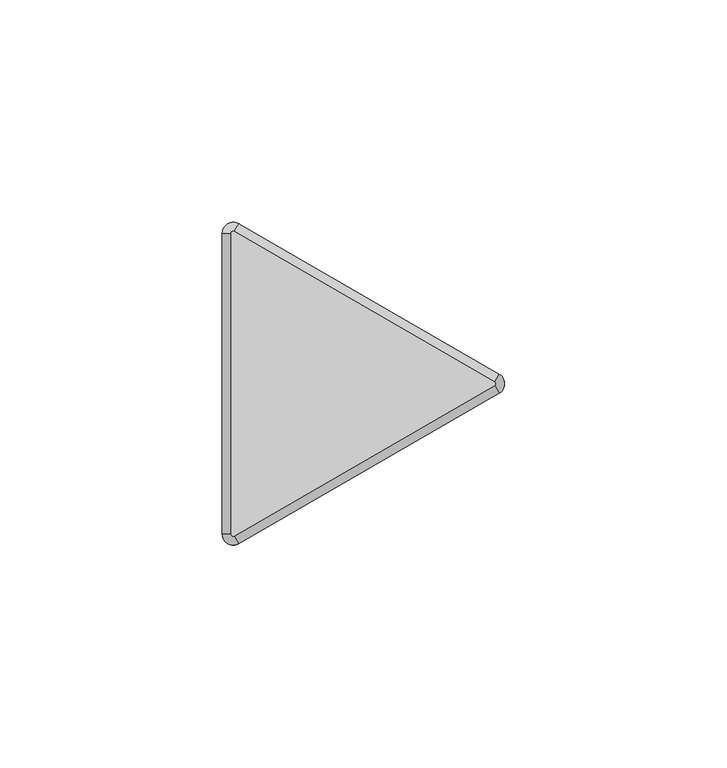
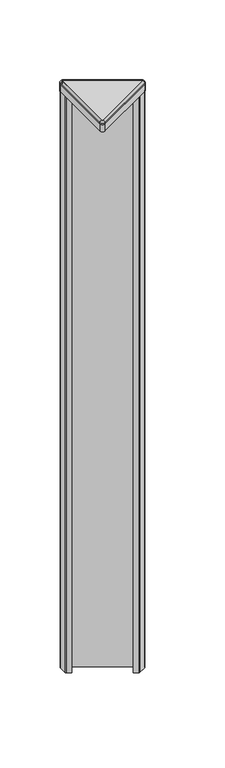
"""IFC4 building model written with IfcOpenShell, lengths in millimetres: furniture geometry, Steelcase - Answer Solution - Panel - 120deg Change-of-Height Trim - Thin : V Corner - 24H for 78H App."""

import ifcopenshell
import ifcopenshell.guid

model = None  # the IFC model being written
_history = None  # IfcOwnerHistory: only IFC2X3 demands one
_inside = {}  # id of a spatial element -> (the spatial element, [elements in it])
_under = {}  # id of a project, library or spatial element -> (it, [spatial elements below it])
_declared = {}  # id of a project -> (the project, [libraries it declares])
_typed = {}  # id of a type object -> (the type object, [elements of that type])
_made_of = {}  # id of a material, layer set ... -> (it, [elements and type objects made of it])


def new_model(schema):
    """Start an empty IFC model of exactly this schema.

    Asked for "IFC4X3", IfcOpenShell would pick the latest addendum, in which some entities
    have other attributes; the version numbers below select the first issue.
    IFC2X3 requires an IfcOwnerHistory on every rooted entity: one is made here for all.
    """
    global model, _history
    if schema == "IFC4X3":
        model = ifcopenshell.file(schema_version=(4, 3, 0, 0))
    else:
        model = ifcopenshell.file(schema=schema)
    _inside.clear()
    _under.clear()
    _declared.clear()
    _typed.clear()
    _made_of.clear()
    _history = None
    if model.schema == "IFC2X3":
        org = make("IfcOrganization", Name="unknown")
        user = make(
            "IfcPersonAndOrganization",
            ThePerson=make("IfcPerson", FamilyName="unknown"),
            TheOrganization=org,
        )
        app = make(
            "IfcApplication",
            ApplicationDeveloper=org,
            Version="unknown",
            ApplicationFullName="unknown",
            ApplicationIdentifier="unknown",
        )
        _history = make(
            "IfcOwnerHistory",
            OwningUser=user,
            OwningApplication=app,
            ChangeAction="ADDED",
            CreationDate=0,
        )
    return model


def make(cls, **values):
    """One entity of the class cls with the attributes given. An attribute that is None is left unset."""
    return model.create_entity(
        cls, **{name: value for name, value in values.items() if value is not None}
    )


def rooted(cls, **values):
    """An entity with a GlobalId (a new one), such as an element, a storey or a relation."""
    return make(cls, GlobalId=ifcopenshell.guid.new(), OwnerHistory=_history, **values)


def si_unit(unit_type, name, prefix=None):
    """IfcSIUnit, for example si_unit("LENGTHUNIT", "METRE", prefix="MILLI")."""
    return make("IfcSIUnit", UnitType=unit_type, Prefix=prefix, Name=name)


def assignment(units):
    """IfcUnitAssignment: the units of a project."""
    return None if units is None else make("IfcUnitAssignment", Units=units)


def point(xyz):
    """IfcCartesianPoint."""
    return None if xyz is None else make("IfcCartesianPoint", Coordinates=xyz)


def direction(xyz):
    """IfcDirection."""
    return None if xyz is None else make("IfcDirection", DirectionRatios=xyz)


def frame(location, z_axis=None, x_axis=None):
    """IfcAxis2Placement3D, a coordinate frame: its origin and axes. An axis left out is left unset."""
    return make(
        "IfcAxis2Placement3D",
        Location=point(location),
        Axis=direction(z_axis),
        RefDirection=direction(x_axis),
    )


def frame_2d(location, x_axis=None):
    """IfcAxis2Placement2D, a coordinate frame in the plane: its origin and x axis."""
    return make(
        "IfcAxis2Placement2D", Location=point(location), RefDirection=direction(x_axis)
    )


def origin():
    """The frame at (0, 0, 0) with its axes left unset."""
    return frame((0.0, 0.0, 0.0))


def place(relative_to, where):
    """IfcLocalPlacement: puts the frame where relative to a parent placement (None: the world)."""
    return make(
        "IfcLocalPlacement", PlacementRelTo=relative_to, RelativePlacement=where
    )


def context(
    kind, dimensions, precision=None, world=None, true_north=None, identifier=None
):
    """IfcGeometricRepresentationContext, for example the 3D "Model" context."""
    return make(
        "IfcGeometricRepresentationContext",
        ContextIdentifier=identifier,
        ContextType=kind,
        CoordinateSpaceDimension=dimensions,
        Precision=precision,
        WorldCoordinateSystem=world,
        TrueNorth=true_north,
    )


def project(units=None, contexts=None):
    """IfcProject with its units and contexts."""
    return rooted(
        "IfcProject",
        Name="project",
        RepresentationContexts=contexts,
        UnitsInContext=assignment(units),
    )


def spatial(cls, under=None, at=None, **own):
    """A site, building, storey or space (cls), placed at a placement, below another one or the project."""
    s = rooted(cls, ObjectPlacement=at, **own)
    if under is not None:
        _under.setdefault(under.id(), (under, []))[1].append(s)
    return s


def polyline(points):
    """IfcPolyline through the points."""
    return make("IfcPolyline", Points=[point(p) for p in points])


def circle_curve(where, radius):
    """IfcCircle in the frame where."""
    return make("IfcCircle", Position=where, Radius=radius)


def ellipse_curve(where, semi_axis1, semi_axis2):
    """IfcEllipse in the frame where."""
    return make(
        "IfcEllipse", Position=where, SemiAxis1=semi_axis1, SemiAxis2=semi_axis2
    )


def trimmed(basis, trim1, trim2, sense, master):
    """IfcTrimmedCurve: the piece of a basis curve between two trims."""
    return make(
        "IfcTrimmedCurve",
        BasisCurve=basis,
        Trim1=trim1,
        Trim2=trim2,
        SenseAgreement=sense,
        MasterRepresentation=master,
    )


def segment(curve, same_sense, transition):
    """IfcCompositeCurveSegment."""
    return make(
        "IfcCompositeCurveSegment",
        Transition=transition,
        SameSense=same_sense,
        ParentCurve=curve,
    )


def composite_curve(segments, self_intersect=None):
    """IfcCompositeCurve: segments joined end to end."""
    return make("IfcCompositeCurve", Segments=segments, SelfIntersect=self_intersect)


def outline(outer, holes=None, kind="AREA"):
    """IfcArbitraryClosedProfileDef: a profile drawn as a closed curve; with holes, ...WithVoids."""
    if holes is None:
        return make("IfcArbitraryClosedProfileDef", ProfileType=kind, OuterCurve=outer)
    return make(
        "IfcArbitraryProfileDefWithVoids",
        ProfileType=kind,
        OuterCurve=outer,
        InnerCurves=holes,
    )


def extrude(swept, where, along, depth):
    """IfcExtrudedAreaSolid: the profile swept, set in the frame where, extruded along a direction by depth."""
    return make(
        "IfcExtrudedAreaSolid",
        SweptArea=swept,
        Position=where,
        ExtrudedDirection=direction(along),
        Depth=depth,
    )


def shape(context_of_items, identifier, shape_type, items):
    """IfcShapeRepresentation: the items that make up one representation, for example the "Body"."""
    return make(
        "IfcShapeRepresentation",
        ContextOfItems=context_of_items,
        RepresentationIdentifier=identifier,
        RepresentationType=shape_type,
        Items=items,
    )


def source(mapping_origin, context_of_items, identifier, shape_type, items):
    """IfcRepresentationMap: a shape defined once, which mapped items show again and again."""
    return make(
        "IfcRepresentationMap",
        MappingOrigin=mapping_origin,
        MappedRepresentation=shape(context_of_items, identifier, shape_type, items),
    )


def transform(
    local_origin,
    x_axis=None,
    y_axis=None,
    z_axis=None,
    scale=None,
    scale2=None,
    scale3=None,
    uniform=True,
):
    """IfcCartesianTransformationOperator3D, or its non-uniform kind. x_axis, y_axis, z_axis: its Axis1, 2, 3."""
    if uniform:
        return make(
            "IfcCartesianTransformationOperator3D",
            Axis1=direction(x_axis),
            Axis2=direction(y_axis),
            LocalOrigin=point(local_origin),
            Scale=scale,
            Axis3=direction(z_axis),
        )
    return make(
        "IfcCartesianTransformationOperator3DnonUniform",
        Axis1=direction(x_axis),
        Axis2=direction(y_axis),
        LocalOrigin=point(local_origin),
        Scale=scale,
        Axis3=direction(z_axis),
        Scale2=scale2,
        Scale3=scale3,
    )


def mapped(mapping_source, mapping_target):
    """IfcMappedItem: shows the shape of a source again, moved by a transform."""
    return make(
        "IfcMappedItem", MappingSource=mapping_source, MappingTarget=mapping_target
    )


def made_of(thing, what):
    """Note that an element or type object is made of a material, layer set ...; save() writes the relation."""
    if what is not None:
        _made_of.setdefault(what.id(), (what, []))[1].append(thing)
    return thing


def element(
    cls,
    number,
    at=None,
    inside=None,
    cuts=None,
    type_object=None,
    material=None,
    context=None,
    identifier="Body",
    shape_type=None,
    held_by="IfcProductDefinitionShape",
    body=None,
    shapes=None,
    **own,
):
    """One element of the class cls, such as IfcWall. Its Tag is "e" and its number.

    at: its placement. inside: the storey or other place that contains it. cuts: it is an
    opening in that element (IfcRelVoidsElement). A single representation is given by context,
    identifier, shape_type and body (its items); several are given by shapes. held_by: the class
    of the entity that holds the representations. save() writes the other relations.
    """
    e = rooted(cls, Tag="e%d" % number, ObjectPlacement=at, **own)
    if body is not None:
        shapes = [shape(context, identifier, shape_type, body)]
    if shapes is not None:
        e.Representation = make(held_by, Representations=shapes)
    if inside is not None:
        _inside.setdefault(inside.id(), (inside, []))[1].append(e)
    if cuts is not None:
        rooted(
            "IfcRelVoidsElement", RelatingBuildingElement=cuts, RelatedOpeningElement=e
        )
    if type_object is not None:
        _typed.setdefault(type_object.id(), (type_object, []))[1].append(e)
    return made_of(e, material)


def aggregate(whole, parts):
    """IfcRelAggregates: a whole, such as a stair, and the parts it consists of."""
    return rooted("IfcRelAggregates", RelatingObject=whole, RelatedObjects=parts)


def save(model, path):
    """Write the relations noted so far, then the file.

    IfcRelAggregates (storeys below a building ...), IfcRelContainedInSpatialStructure (elements
    in a storey), IfcRelDefinesByType, IfcRelAssociatesMaterial and IfcRelDeclares: one each for
    every whole, place, type object, material and project.
    """
    for whole, parts in _under.values():
        aggregate(whole, parts)
    for where, things in _inside.values():
        rooted(
            "IfcRelContainedInSpatialStructure",
            RelatedElements=things,
            RelatingStructure=where,
        )
    for kind, things in _typed.values():
        rooted("IfcRelDefinesByType", RelatedObjects=things, RelatingType=kind)
    for what, things in _made_of.values():
        rooted("IfcRelAssociatesMaterial", RelatedObjects=things, RelatingMaterial=what)
    for by, libraries in _declared.values():
        rooted("IfcRelDeclares", RelatingContext=by, RelatedDefinitions=libraries)
    model.write(path)


def plane_surface(at):
    """IfcPlane: the flat surface through the origin of the frame at, square to its z axis."""
    return make("IfcPlane", Position=at)


def cylinder_surface(at, radius):
    """IfcCylindricalSurface: all points at the distance radius from the z axis of the frame at."""
    return make("IfcCylindricalSurface", Position=at, Radius=radius)


def revolved_surface(curve, axis_point, axis_direction):
    """IfcSurfaceOfRevolution: the curve turned about the line through axis_point along axis_direction."""
    return make(
        "IfcSurfaceOfRevolution",
        SweptCurve=make("IfcArbitraryOpenProfileDef", ProfileType="CURVE", Curve=curve),
        AxisPosition=make("IfcAxis1Placement", Location=point(axis_point), Axis=direction(axis_direction)),
    )


def advanced_brep(points, edges, surfaces, faces):
    """IfcAdvancedBrep: a solid bounded by faces that lie on surfaces and meet in shared edges.

    An edge is (start, end): straight between two places in points (the first is 0);
    or (start, end, curve); or (start, end, curve, False) where it runs against its curve.
    A face is (place in surfaces, loops), or (place, loops, False) where it looks against
    its surface's normal. A loop lists edges by number (the first is 1), with a minus sign
    where the edge is run from its end to its start. The first loop is the outer one.
    """
    corners = [point(p) for p in points]
    vertices = [make("IfcVertexPoint", VertexGeometry=c) for c in corners]
    made = []
    for start, end, *more in edges:
        made.append(
            make(
                "IfcEdgeCurve",
                EdgeStart=vertices[start],
                EdgeEnd=vertices[end],
                EdgeGeometry=more[0] if more else make("IfcPolyline", Points=[corners[start], corners[end]]),
                SameSense=more[1] if len(more) > 1 else True,
            )
        )
    hull = []
    for where, loops, *sense in faces:
        bounds = []
        for j, loop in enumerate(loops):
            ring = [make("IfcOrientedEdge", EdgeElement=made[abs(k) - 1], Orientation=k > 0) for k in loop]
            bounds.append(
                make(
                    "IfcFaceOuterBound" if j == 0 else "IfcFaceBound",
                    Bound=make("IfcEdgeLoop", EdgeList=ring),
                    Orientation=True,
                )
            )
        hull.append(make("IfcAdvancedFace", Bounds=bounds, FaceSurface=surfaces[where], SameSense=sense[0] if sense else True))
    return make("IfcAdvancedBrep", Outer=make("IfcClosedShell", CfsFaces=hull))


def furniture_e3caeb07(model_context):
    return source(origin(), model_context, "Body", "SolidModel", [
        advanced_brep(
        [(-10.518645, -37.3335529, 1985.6628978), (-14.2052101, -35.2051135, 1985.6628978), (-14.2052101, -35.2051135, 1984.7164663), (-10.518645, -37.3335529, 1984.7164663), (-11.46175, -35.7000471, 1987.55), (-12.319, -35.2051135, 1987.55), (-11.46175, -35.7000471, 1984.7164663), (-12.319, -35.2051135, 1984.7164663), (48.0429908, -3.5229767, 1984.7164663), (48.0429908, -3.5229767, 1985.6628978), (47.0998858, -1.8894709, 1987.55), (47.0998858, -1.8894709, 1984.7164663), (48.0429908, 0.733902, 1985.6628978), (48.0429908, 0.733902, 1984.7164663), (47.0998858, -0.8996038, 1987.55), (47.0998858, -0.8996038, 1984.7164663), (-10.518645, 34.5444782, 1984.7164663), (-14.2052101, 32.4160388, 1984.7164663), (-11.46175, 32.9109723, 1984.7164663), (-12.319, 32.4160388, 1984.7164663), (-10.518645, 34.5444782, 1985.6628978), (-11.46175, 32.9109723, 1987.55), (-14.2052101, 32.4160388, 1985.6628978), (-12.319, 32.4160388, 1987.55)],
        [
            (0, 1, circle_curve(frame((-11.7475, -35.2051135, 1985.6628978), z_axis=(0.0, 0.0, -1.0), x_axis=(-1.0, 0.0, 0.0)), 2.4577101)),
            (1, 2),
            (2, 3, circle_curve(frame((-11.7475, -35.2051135, 1984.7164663), z_axis=(0.0, 0.0, 1.0), x_axis=(-1.0, 0.0, 0.0)), 2.4577101)),
            (3, 0),
            (4, 5, circle_curve(frame((-11.7475, -35.2051135, 1987.55), z_axis=(0.0, 0.0, -1.0), x_axis=(-1.0, 0.0, 0.0)), 0.5715)),
            (5, 1, circle_curve(frame((-12.3181076, -35.2051135, 1985.6628978), z_axis=(0.0, -1.0, 0.0), x_axis=(1.0, 0.0, 0.0)), 1.8871024)),
            (0, 4, circle_curve(frame((-11.4621962, -35.6992743, 1985.6628978), z_axis=(-0.8660254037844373, -0.5000000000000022, 0.0), x_axis=(-0.5000000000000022, 0.8660254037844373, 0.0)), 1.8871024)),
            (6, 7, circle_curve(frame((-11.7475, -35.2051135, 1984.7164663), z_axis=(0.0, 0.0, -1.0), x_axis=(-1.0, 0.0, 0.0)), 0.5715)),
            (7, 5),
            (4, 6),
            (3, 8),
            (8, 9),
            (9, 0),
            (9, 10, circle_curve(frame((47.0994396, -1.8886981, 1985.6628978), z_axis=(-0.8660254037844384, -0.5000000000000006, 0.0), x_axis=(-0.5000000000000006, 0.8660254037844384, 0.0)), 1.8871024)),
            (10, 4),
            (10, 11),
            (11, 6),
            (12, 9, circle_curve(frame((46.8141358, -1.3945374, 1985.6628978), z_axis=(0.0, 0.0, -1.0), x_axis=(0.4999999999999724, -0.8660254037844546, 0.0)), 2.4577101)),
            (8, 13, circle_curve(frame((46.8141358, -1.3945374, 1984.7164663), z_axis=(0.0, 0.0, 1.0), x_axis=(0.4999999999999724, -0.8660254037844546, 0.0)), 2.4577101)),
            (13, 12),
            (14, 10, circle_curve(frame((46.8141358, -1.3945374, 1987.55), z_axis=(0.0, 0.0, -1.0), x_axis=(0.4999999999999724, -0.8660254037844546, 0.0)), 0.5715)),
            (12, 14, circle_curve(frame((47.0994396, -0.9003766, 1985.6628978), z_axis=(0.8660254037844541, -0.49999999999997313, 0.0), x_axis=(-0.49999999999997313, -0.8660254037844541, 0.0)), 1.8871024)),
            (15, 11, circle_curve(frame((46.8141358, -1.3945374, 1984.7164663), z_axis=(0.0, 0.0, -1.0), x_axis=(0.4999999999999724, -0.8660254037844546, 0.0)), 0.5715)),
            (14, 15),
            (16, 13),
            (2, 17),
            (17, 16, circle_curve(frame((-11.7475, 32.4160388, 1984.7164663), z_axis=(0.0, 0.0, -1.0), x_axis=(0.500000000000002, 0.8660254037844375, 0.0)), 2.4577101)),
            (15, 18),
            (18, 19, circle_curve(frame((-11.7475, 32.4160388, 1984.7164663), z_axis=(0.0, 0.0, 1.0), x_axis=(0.500000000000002, 0.8660254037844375, 0.0)), 0.5715)),
            (19, 7),
            (16, 20),
            (20, 12),
            (20, 21, circle_curve(frame((-11.4621962, 32.9101995, 1985.6628978), z_axis=(0.8660254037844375, -0.5000000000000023, 0.0), x_axis=(-0.5000000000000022, -0.8660254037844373, 0.0)), 1.8871024)),
            (21, 14),
            (21, 18),
            (22, 20, circle_curve(frame((-11.7475, 32.4160388, 1985.6628978), z_axis=(0.0, 0.0, -1.0), x_axis=(0.500000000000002, 0.8660254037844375, 0.0)), 2.4577101)),
            (17, 22),
            (23, 21, circle_curve(frame((-11.7475, 32.4160388, 1987.55), z_axis=(0.0, 0.0, -1.0), x_axis=(0.500000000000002, 0.8660254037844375, 0.0)), 0.5715)),
            (22, 23, circle_curve(frame((-12.3181076, 32.4160388, 1985.6628978), z_axis=(0.0, 1.0, 0.0), x_axis=(1.0, 0.0, 0.0)), 1.8871024)),
            (23, 19),
            (1, 22),
            (5, 23),
        ],
        [
            cylinder_surface(frame((-11.7475, -35.2051135, 0.0), z_axis=(0.0, 0.0, 1.0), x_axis=(-1.0, 0.0, 0.0)), 2.4577101),
            revolved_surface(trimmed(ellipse_curve(frame((-12.3181076, -35.2051135, 1985.6628978), z_axis=(0.0, 1.0, 0.0), x_axis=(1.0, 0.0, 0.0)), 1.8871024, 1.8871024), [point((-14.2052101, -35.2051135, 1985.6628978))], [point((-12.319, -35.2051135, 1987.55))], True, "CARTESIAN"), (-11.7475, -35.2051135, 0.0), (0.0, 0.0, 1.0)),
            revolved_surface(polyline([(-12.319, -35.2051135, 1987.55), (-12.319, -35.2051135, 1984.7164663)]), (-11.7475, -35.2051135, 0.0), (0.0, 0.0, 1.0)),
            plane_surface(frame((-10.518645, -37.3335529, 1984.7164663), z_axis=(0.5000000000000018, -0.8660254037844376, 0.0), x_axis=(0.8660254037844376, 0.5000000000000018, 0.0))),
            cylinder_surface(frame((-11.4621962, -35.6992743, 1985.6628978), z_axis=(-0.8660254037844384, -0.5000000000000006, 0.0), x_axis=(-0.5000000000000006, 0.8660254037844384, 0.0)), 1.8871024),
            plane_surface(frame((-11.46175, -35.7000471, 1987.55), z_axis=(-0.5000000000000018, 0.8660254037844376, 0.0), x_axis=(0.8660254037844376, 0.5000000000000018, 0.0))),
            cylinder_surface(frame((46.8141358, -1.3945374, 0.0), z_axis=(0.0, 0.0, 1.0), x_axis=(0.4999999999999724, -0.8660254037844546, 0.0)), 2.4577101),
            revolved_surface(trimmed(ellipse_curve(frame((47.0994396, -1.8886981, 1985.6628978), z_axis=(-0.8660254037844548, -0.499999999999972, 0.0), x_axis=(-0.499999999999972, 0.8660254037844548, 0.0)), 1.8871024, 1.8871024), [point((48.0429908, -3.5229767, 1985.6628978))], [point((47.0998858, -1.8894709, 1987.55))], True, "CARTESIAN"), (46.8141358, -1.3945374, 0.0), (0.0, 0.0, 1.0)),
            revolved_surface(polyline([(47.09988579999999, -1.8894709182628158, 1987.55), (47.09988579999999, -1.8894709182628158, 1984.7164663)]), (46.8141358, -1.3945374, 0.0), (0.0, 0.0, 1.0)),
            plane_surface(frame((47.0998858, -0.8996038, 1984.7164663), z_axis=(0.0, 0.0, -1.0), x_axis=(-0.8660254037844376, 0.5000000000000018, 0.0))),
            plane_surface(frame((48.0429908, 0.733902, 1984.7164663), z_axis=(0.5000000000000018, 0.8660254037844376, 0.0), x_axis=(-0.8660254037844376, 0.5000000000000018, 0.0))),
            cylinder_surface(frame((47.0994396, -0.9003766, 1985.6628978), z_axis=(0.8660254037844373, -0.5000000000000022, 0.0), x_axis=(-0.5000000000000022, -0.8660254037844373, 0.0)), 1.8871024),
            plane_surface(frame((47.0998858, -0.8996038, 1987.55), z_axis=(-0.5000000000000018, -0.8660254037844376, 0.0), x_axis=(-0.8660254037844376, 0.5000000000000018, 0.0))),
            cylinder_surface(frame((-11.7475, 32.4160388, 0.0), z_axis=(0.0, 0.0, 1.0), x_axis=(0.500000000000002, 0.8660254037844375, 0.0)), 2.4577101),
            revolved_surface(trimmed(ellipse_curve(frame((-11.4621962, 32.9101995, 1985.6628978), z_axis=(0.866025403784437, -0.5000000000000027, 0.0), x_axis=(-0.5000000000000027, -0.866025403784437, 0.0)), 1.8871024, 1.8871024), [point((-10.518645, 34.5444782, 1985.6628978))], [point((-11.46175, 32.9109723, 1987.55))], True, "CARTESIAN"), (-11.7475, 32.4160388, 0.0), (0.0, 0.0, 1.0)),
            revolved_surface(polyline([(-11.461749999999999, 32.91097231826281, 1987.55), (-11.461749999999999, 32.91097231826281, 1984.7164663)]), (-11.7475, 32.4160388, 0.0), (0.0, 0.0, 1.0)),
            plane_surface(frame((-14.2052101, 32.4160388, 1984.7164663), z_axis=(-1.0, 0.0, 0.0), x_axis=(0.0, -1.0, 0.0))),
            cylinder_surface(frame((-12.3181076, 32.4160388, 1985.6628978), z_axis=(0.0, 1.0, 0.0), x_axis=(1.0, 0.0, 0.0)), 1.8871024),
            plane_surface(frame((-12.319, 32.4160388, 1987.55), z_axis=(1.0, 0.0, 0.0), x_axis=(0.0, -1.0, 0.0))),
        ],
        [
            (0, [[1, 2, 3, 4]]),
            (1, [[5, 6, -1, 7]]),
            (2, [[8, 9, -5, 10]]),
            (3, [[-4, 11, 12, 13]]),
            (4, [[-7, -13, 14, 15]]),
            (5, [[-10, -15, 16, 17]]),
            (6, [[18, -12, 19, 20]]),
            (7, [[21, -14, -18, 22]]),
            (8, [[23, -16, -21, 24]]),
            (9, [[25, -19, -11, -3, 26, 27], [-8, -17, -23, 28, 29, 30]]),
            (10, [[-20, -25, 31, 32]]),
            (11, [[-22, -32, 33, 34]]),
            (12, [[-24, -34, 35, -28]]),
            (13, [[36, -31, -27, 37]]),
            (14, [[38, -33, -36, 39]]),
            (15, [[-29, -35, -38, 40]]),
            (16, [[-37, -26, -2, 41]]),
            (17, [[-39, -41, -6, 42]]),
            (18, [[-40, -42, -9, -30]]),
        ],
    ),
        extrude(outline(composite_curve([segment(trimmed(circle_curve(frame_2d((46.8261011, -1.3945374)), 0.5655173), [point((47.1088598, -0.904785))], [point((47.1088598, -1.8842897))], False, "CARTESIAN"), True, "CONTINUOUS"), segment(polyline([(47.1088598, -1.8842897), (-11.4505119, -35.6935587)]), True, "CONTINUOUS"), segment(trimmed(circle_curve(frame_2d((-11.7400079, -35.1921369)), 0.5789921), [point((-11.4505119, -35.6935587))], [point((-12.319, -35.1921369))], False, "CARTESIAN"), True, "CONTINUOUS"), segment(polyline([(-12.319, -35.1921369), (-12.319, 32.3985888)]), True, "CONTINUOUS"), segment(trimmed(circle_curve(frame_2d((-11.7374252, 32.3985888)), 0.5815748), [point((-12.319, 32.3985888))], [point((-11.4466378, 32.9022473))], False, "CARTESIAN"), True, "CONTINUOUS"), segment(polyline([(-11.4466378, 32.9022473), (47.1088598, -0.904785)]), True, "CONTINUOUS")], self_intersect=False)), frame((0.0, 0.0, 1984.7164663), z_axis=(0.0, 0.0, 1.0), x_axis=(1.0, 0.0, 0.0)), (0.0, 0.0, 1.0), 2.8335337),
        extrude(outline(composite_curve([segment(trimmed(circle_curve(frame_2d((47.9608454, -1.3945374)), 1.2935425), [point((48.6076166, -0.2742967))], [point((48.6076166, -2.514778))], False, "CARTESIAN"), True, "CONTINUOUS"), segment(polyline([(48.6076166, -2.514778), (41.722656, -6.4898119)]), True, "CONTINUOUS"), segment(trimmed(circle_curve(frame_2d((41.0991304, -5.4098338)), 1.2470513), [point((41.722656, -6.4898119))], [point((40.4756048, -6.4898119))], False, "CARTESIAN"), True, "CONTINUOUS"), segment(polyline([(40.4756048, -6.4898119), (36.3239304, -4.0928416), (36.7811304, -3.300948), (41.0991304, -5.7939464), (47.3502407, -2.1848662)]), True, "CONTINUOUS"), segment(trimmed(circle_curve(frame_2d((46.8939441, -1.3945374)), 0.9125932), [point((47.3502407, -2.1848662))], [point((47.3502407, -0.6042085))], True, "CARTESIAN"), True, "CONTINUOUS"), segment(polyline([(47.3502407, -0.6042085), (-11.3312768, 33.2755814)]), True, "CONTINUOUS"), segment(trimmed(circle_curve(frame_2d((-11.7875179, 32.4853487)), 0.9124821), [point((-11.3312768, 33.2755814))], [point((-12.7, 32.4853487))], True, "CARTESIAN"), True, "CONTINUOUS"), segment(polyline([(-12.7, 32.4853487), (-12.7, 25.266996), (-8.382, 22.7739975), (-8.8392, 21.9821039), (-12.9583282, 24.3602837)]), True, "CONTINUOUS"), segment(trimmed(circle_curve(frame_2d((-12.3022565, 25.4966333)), 1.3121435), [point((-12.9583282, 24.3602837))], [point((-13.6144, 25.4966333))], False, "CARTESIAN"), True, "CONTINUOUS"), segment(polyline([(-13.6144, 25.4966333), (-13.6144, 33.3957138)]), True, "CONTINUOUS"), segment(trimmed(circle_curve(frame_2d((-12.3131174, 33.3957138)), 1.3012826), [point((-13.6144, 33.3957138))], [point((-11.6624761, 34.5226576))], False, "CARTESIAN"), True, "CONTINUOUS"), segment(polyline([(-11.6624761, 34.5226576), (48.6076166, -0.2742967)]), True, "CONTINUOUS")], self_intersect=False)), frame((0.0, 0.0, 1377.95), z_axis=(0.0, 0.0, 1.0), x_axis=(1.0, 0.0, 0.0)), (0.0, 0.0, 1.0), 599.44),
        extrude(outline(composite_curve([segment(trimmed(circle_curve(frame_2d((46.8140443, -1.3945374)), 2.4577558), [point((48.0429222, 0.7339416))], [point((48.0429222, -3.5230163))], False, "CARTESIAN"), True, "CONTINUOUS"), segment(polyline([(48.0429222, -3.5230163), (-10.518058, -37.333214)]), True, "CONTINUOUS"), segment(trimmed(circle_curve(frame_2d((-11.7471087, -35.2044357)), 2.4581014), [point((-10.518058, -37.333214))], [point((-14.2052101, -35.2044357))], False, "CARTESIAN"), True, "CONTINUOUS"), segment(polyline([(-14.2052101, -35.2044357), (-14.2052101, 32.4160388)]), True, "CONTINUOUS"), segment(trimmed(circle_curve(frame_2d((-11.7475, 32.4160388)), 2.4577101), [point((-14.2052101, 32.4160388))], [point((-10.518645, 34.5444782))], False, "CARTESIAN"), True, "CONTINUOUS"), segment(polyline([(-10.518645, 34.5444782), (48.0429222, 0.7339416)]), True, "CONTINUOUS")], self_intersect=False)), frame((0.0, 0.0, 1977.39), z_axis=(0.0, 0.0, 1.0), x_axis=(1.0, 0.0, 0.0)), (0.0, 0.0, 1.0), 7.3264663),
    ])


if __name__ == "__main__":
    model = new_model("IFC4")
    model_context = context("Model", 3, world=origin())
    ifc_project = project(units=[si_unit("LENGTHUNIT", "METRE", prefix="MILLI")], contexts=[model_context])
    site = spatial("IfcSite", under=ifc_project)
    building = spatial("IfcBuilding", under=site)
    placement = place(None, origin())
    furniture_shape = furniture_e3caeb07(model_context)
    element("IfcFurniture", 1, ObjectType="Steelcase - Answer Solution - Panel - 120deg Change-of-Height Trim - Thin : V Corner - 24H for 78H App", at=placement, inside=building, context=model_context, shape_type="MappedRepresentation", body=[
        mapped(furniture_shape, transform((0.0, 0.0, 0.0), x_axis=(1.0, 0.0, 0.0), y_axis=(0.0, 1.0, 0.0), z_axis=(0.0, 0.0, 1.0))),
    ])
    save(model, "model.ifc")
